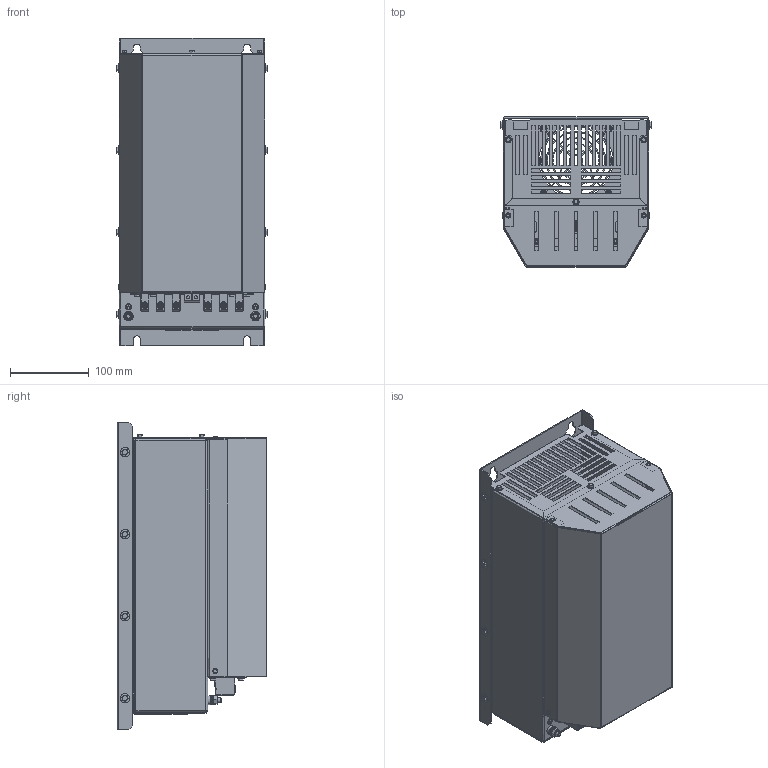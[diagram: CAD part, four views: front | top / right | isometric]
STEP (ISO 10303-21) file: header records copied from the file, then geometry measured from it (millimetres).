
FILE_DESCRIPTION((''),'2;1');
FILE_NAME('C:\Users\Samuel.Meier\Desktop\Fuer_Kamenka\EcoSine_Light_Typ_B.stp','2012-10-10T12:01:08',('Samuel.Meier'),(''),'Autodesk Inventor 2010','Autodesk Inventor 2010','');
FILE_SCHEMA(('AUTOMOTIVE_DESIGN { 1 0 10303 214 1 1 1 1 }'));
Length unit declared in the file: millimetre
Products named in the file (1): Bauteil9
Bounding box: 192.2 x 190 x 390 mm (x, y, z)
Volume: 526899.7 mm3; surface area: 704289.6 mm2
Topology: 9 solids, 28 shells, 2153 faces, 5338 edges, 3362 vertices
Faces by surface type: plane 1144, cylinder 511, bspline 266, cone 119, torus 77, sphere 36
Full cylindrical faces by diameter (mm): 2.905 x1, 3.141 x7, 3.2 x5, 3.3 x1, 3.5 x5, 4 x23, 4.3 x4, 4.5 x6, 5 x16, 5.459 x2, 5.5 x6, 6 x4, 6.4 x2, 6.5 x9, 7 x5, 7.3 x2, 7.713 x1, 7.9 x7, 8 x8, 8.5 x6, 8.7 x10, 9 x4, 9.9 x2, 10 x1, 11.05 x2, 12 x10
Entity records: 72193 total; most frequent: CARTESIAN_POINT 21533, ORIENTED_EDGE 9820, DIRECTION 9630, EDGE_CURVE 4910, AXIS2_PLACEMENT_3D 3344, VERTEX_POINT 3278, VECTOR 2942, LINE 2942
